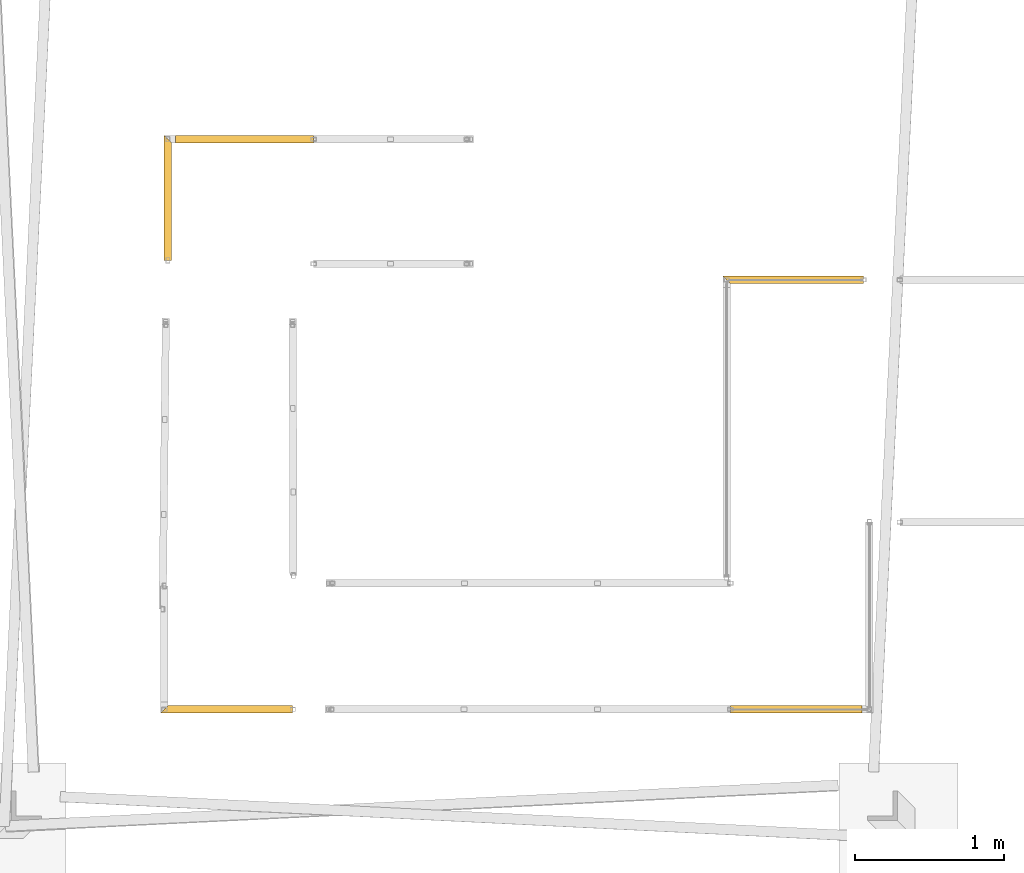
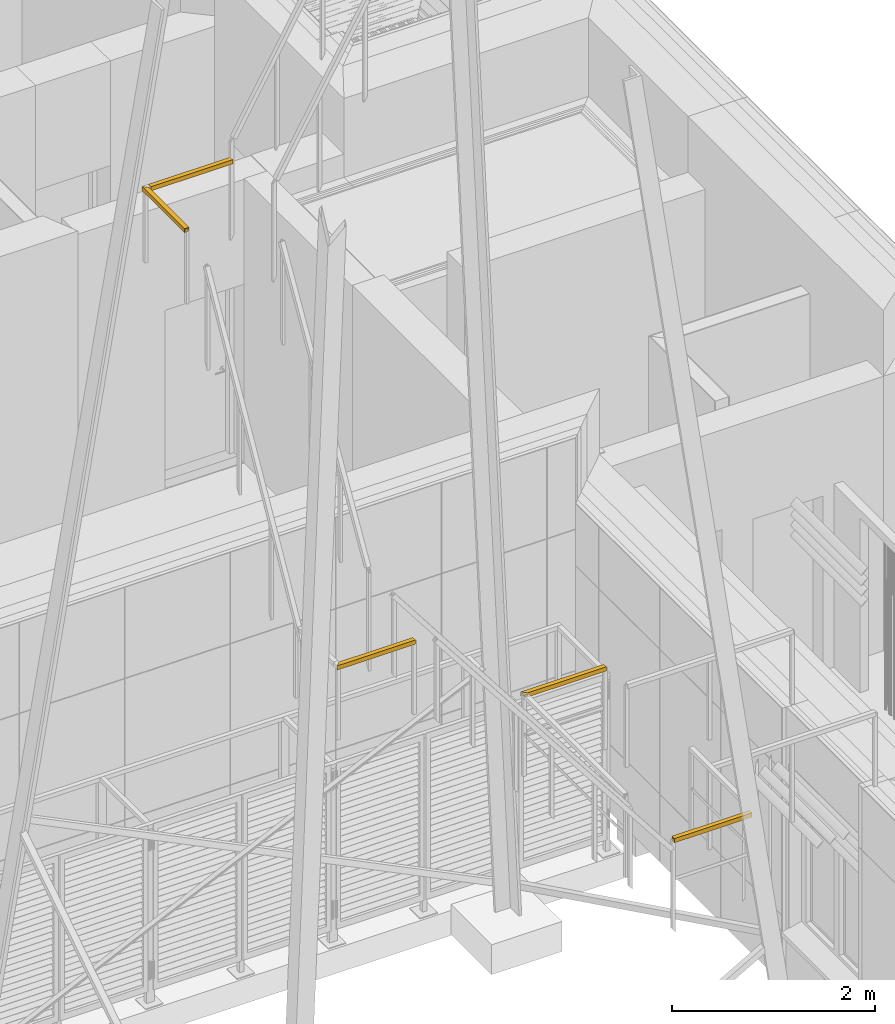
# One storey, part 171 of 418: 5 railings, 4 elements without a shape of their own.
"""IFC2X3 building model written with IfcOpenShell, lengths in millimetres."""

from ifc_helpers import new_model, entity, si_unit, converted_unit, derived_unit, money_unit, direction, frame, origin_with_axes, place, context, subcontext, project, spatial, faceted_brep, material, type_object, element, aggregate, save


model = new_model("IFC2X3")

# Units and contexts
model_context = context("Model", 3, precision=0.01, world=origin_with_axes(), true_north=direction((0.0, 1.0)))
body_context = subcontext(model_context, "Body", "Model", "MODEL_VIEW")
ifc_project = project(units=[si_unit("LENGTHUNIT", "METRE", prefix="MILLI"), si_unit("AREAUNIT", "SQUARE_METRE"), si_unit("VOLUMEUNIT", "CUBIC_METRE"), converted_unit("PLANEANGLEUNIT", "DEGREE", entity("IfcPlaneAngleMeasure", 0.0174532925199), si_unit("PLANEANGLEUNIT", "RADIAN"), dimensions=[0, 0, 0, 0, 0, 0, 0]), si_unit("SOLIDANGLEUNIT", "STERADIAN"), money_unit("EUR"), converted_unit("TIMEUNIT", "Year", entity("IfcTimeMeasure", 31556926.0), si_unit("TIMEUNIT", "SECOND"), dimensions=[0, 0, 1, 0, 0, 0, 0]), si_unit("MASSUNIT", "GRAM", prefix="KILO"), si_unit("THERMODYNAMICTEMPERATUREUNIT", "DEGREE_CELSIUS"), si_unit("LUMINOUSINTENSITYUNIT", "LUMEN"), si_unit("ENERGYUNIT", "JOULE", prefix="MEGA"), derived_unit("THERMALCONDUCTANCEUNIT", [(si_unit("POWERUNIT", "WATT"), 1), (si_unit("LENGTHUNIT", "METRE"), -1), (si_unit("THERMODYNAMICTEMPERATUREUNIT", "KELVIN"), -1)]), derived_unit("SPECIFICHEATCAPACITYUNIT", [(si_unit("ENERGYUNIT", "JOULE"), 1), (si_unit("MASSUNIT", "GRAM", prefix="KILO"), -1), (si_unit("THERMODYNAMICTEMPERATUREUNIT", "KELVIN"), -1)]), derived_unit("MASSDENSITYUNIT", [(si_unit("MASSUNIT", "GRAM", prefix="KILO"), 1), (si_unit("VOLUMEUNIT", "CUBIC_METRE"), -1)])], contexts=[model_context])

# Site, building, storey
site_placement = place(None, origin_with_axes())
site = spatial("IfcSite", under=ifc_project, at=site_placement, Name="Paldiski mnt 245/1, Tallinn, Harjumaa", CompositionType="COMPLEX")
building_placement = place(site_placement, origin_with_axes())
building = spatial("IfcBuilding", under=site, at=building_placement, Name="RKAS Hoone üldnimetus (kasutust iseloomustav) -> IFC Project Manager -> SOLIBRI", CompositionType="ELEMENT")
storey_placement = place(building_placement, origin_with_axes())
storey = spatial("IfcBuildingStorey", under=building, at=storey_placement, Name="Esimene korrus", CompositionType="ELEMENT", Elevation=0.0)

# Railings
railing_type_1 = type_object("IfcRailingType", Name="Railing Type", PredefinedType="NOTDEFINED")
railing_1_placement = place(storey_placement, frame((-50030.6058534, -4525.08408706, 3600.0), z_axis=(0.0, 0.0, 1.0), x_axis=(-0.773149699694, -0.634223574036, 0.0)))
railing_1 = element("IfcRailing", 1, at=railing_1_placement, inside=storey, type_object=railing_type_1, Name="PIIRE", PredefinedType="NOTDEFINED")
ifc_material = material(Name="ET-07_Teras - Roostevaba")
railing_type_2 = type_object("IfcRailingType", Name="IfcRailing", PredefinedType="GUARDRAIL")
railing_2_placement = place(railing_1_placement, frame((544.56646947, -446.714126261, 844.098300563), z_axis=(0.0, 0.0, 1.0), x_axis=(-0.773149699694, 0.634223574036, 0.0)))
railing_2 = element("IfcRailing", 2, at=railing_2_placement, type_object=railing_type_2, material=ifc_material, Name="Piirde Ülaosa - 001", PredefinedType="GUARDRAIL", context=body_context, shape_type="Brep", body=[
    faceted_brep([(459.921650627, 25.0, 55.9016994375), (459.921650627, 25.0, 5.9016994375), (-484.921650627, 25.0, 5.9016994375), (-484.921650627, 25.0, 55.9016994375), (459.921650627, -25.0, 55.9016994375), (459.921650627, -25.0, 5.9016994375), (459.921650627, 15.0, 45.9016994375), (459.921650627, 15.0, 15.9016994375), (459.921650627, -15.0, 15.9016994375), (459.921650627, -15.0, 45.9016994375), (-434.921650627, -25.0, 5.9016994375), (-434.921650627, -25.0, 55.9016994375), (-474.921650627, 15.0, 45.9016994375), (-444.921650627, -15.0, 45.9016994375), (-444.921650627, -15.0, 15.9016994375), (-474.921650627, 15.0, 15.9016994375)], [[[0, 1, 2, 3]], [[0, 4, 5, 1], [6, 7, 8, 9]], [[1, 5, 10, 2]], [[3, 2, 10, 11], [12, 13, 14, 15]], [[4, 0, 3, 11]], [[5, 4, 11, 10]], [[7, 6, 12, 15]], [[8, 7, 15, 14]], [[9, 8, 14, 13]], [[6, 9, 13, 12]]]),
])
aggregate(railing_1, [railing_2])

railing_3_placement = place(storey_placement, frame((-50030.6058534, -6155.24631697, 3600.0), z_axis=(0.0, 0.0, 1.0), x_axis=(-0.773149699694, -0.634223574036, 0.0)))
railing_3 = element("IfcRailing", 3, at=railing_3_placement, inside=storey, type_object=railing_type_1, Name="PIIRE", PredefinedType="NOTDEFINED")
railing_4_placement = place(railing_3_placement, frame((1338.11129652, 532.029270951, 844.098300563), z_axis=(0.0, 0.0, 1.0), x_axis=(-0.773149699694, 0.634223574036, 0.0)))
railing_4 = element("IfcRailing", 4, at=railing_4_placement, type_object=railing_type_2, material=ifc_material, Name="Piirde Ülaosa - 001", PredefinedType="GUARDRAIL", context=body_context, shape_type="Brep", body=[
    faceted_brep([(442.134841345, 15.0, 15.9016994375), (442.134841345, 15.0, 45.9016994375), (-442.134841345, 15.0, 45.9016994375), (-442.134841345, 15.0, 15.9016994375), (442.134841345, 25.0, 5.9016994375), (442.134841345, 25.0, 55.9016994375), (442.134841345, -25.0, 55.9016994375), (442.134841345, -25.0, 5.9016994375), (442.134841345, -15.0, 45.9016994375), (442.134841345, -15.0, 15.9016994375), (-442.134841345, -15.0, 45.9016994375), (-442.134841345, 25.0, 5.9016994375), (-442.134841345, -25.0, 5.9016994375), (-442.134841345, -25.0, 55.9016994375), (-442.134841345, 25.0, 55.9016994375), (-442.134841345, -15.0, 15.9016994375)], [[[0, 1, 2, 3]], [[4, 5, 6, 7], [8, 1, 0, 9]], [[1, 8, 10, 2]], [[11, 12, 13, 14], [10, 15, 3, 2]], [[9, 0, 3, 15]], [[5, 4, 11, 14]], [[6, 5, 14, 13]], [[7, 6, 13, 12]], [[4, 7, 12, 11]], [[8, 9, 15, 10]]]),
])
aggregate(railing_3, [railing_4])

railing_5_placement = place(storey_placement, frame((-54954.2897644, -4493.79536776, 10418.9997911), z_axis=(0.0, 0.0, 1.0), x_axis=(-0.773149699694, -0.634223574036, 0.0)))
railing_5 = element("IfcRailing", 5, at=railing_5_placement, inside=storey, type_object=railing_type_1, Name="PIIRE", PredefinedType="NOTDEFINED")
railing_6_placement = place(railing_5_placement, frame((-321.908179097, -392.421887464, 844.098300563), z_axis=(0.0, 0.0, 1.0), x_axis=(-0.773149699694, 0.634223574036, 0.0)))
railing_6 = element("IfcRailing", 6, at=railing_6_placement, type_object=railing_type_2, material=ifc_material, Name="Piirde Ülaosa - 001", PredefinedType="GUARDRAIL", context=body_context, shape_type="Brep", body=[
    faceted_brep([(25.0, -407.562620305, 55.9016994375), (25.0, -407.562620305, 5.90169943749), (25.0, 382.562620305, 5.90169943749), (25.0, 382.562620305, 55.9016994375), (-25.0, -407.562620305, 55.9016994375), (-25.0, -407.562620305, 5.90169943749), (15.0, -407.562620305, 45.9016994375), (15.0, -407.562620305, 15.9016994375), (-15.0, -407.562620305, 15.9016994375), (-15.0, -407.562620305, 45.9016994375), (-25.0, 432.562620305, 5.90169943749), (-25.0, 432.562620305, 55.9016994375), (15.0, 392.562620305, 45.9016994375), (-15.0, 422.562620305, 45.9016994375), (-15.0, 422.562620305, 15.9016994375), (15.0, 392.562620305, 15.9016994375)], [[[0, 1, 2, 3]], [[0, 4, 5, 1], [6, 7, 8, 9]], [[1, 5, 10, 2]], [[3, 2, 10, 11], [12, 13, 14, 15]], [[4, 0, 3, 11]], [[5, 4, 11, 10]], [[7, 6, 12, 15]], [[8, 7, 15, 14]], [[9, 8, 14, 13]], [[6, 9, 13, 12]]]),
])
railing_7_placement = place(railing_5_placement, frame((-978.331489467, -381.096114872, 844.098300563), z_axis=(0.0, 0.0, 1.0), x_axis=(-0.773149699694, 0.634223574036, 0.0)))
railing_7 = element("IfcRailing", 7, at=railing_7_placement, type_object=railing_type_2, material=ifc_material, Name="Piirde Ülaosa - 001", PredefinedType="GUARDRAIL", context=body_context, shape_type="Brep", body=[
    faceted_brep([(-464.696557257, -15.0, 45.9016994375), (-464.696557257, 15.0, 45.9016994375), (464.696557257, 15.0, 45.9016994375), (464.696557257, -15.0, 45.9016994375), (-464.696557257, -25.0, 55.9016994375), (-464.696557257, 25.0, 55.9016994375), (-464.696557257, 25.0, 5.90169943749), (-464.696557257, -25.0, 5.90169943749), (-464.696557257, 15.0, 15.9016994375), (-464.696557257, -15.0, 15.9016994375), (464.696557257, 15.0, 15.9016994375), (464.696557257, -25.0, 5.90169943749), (464.696557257, 25.0, 5.90169943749), (464.696557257, 25.0, 55.9016994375), (464.696557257, -25.0, 55.9016994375), (464.696557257, -15.0, 15.9016994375)], [[[0, 1, 2, 3]], [[4, 5, 6, 7], [8, 1, 0, 9]], [[1, 8, 10, 2]], [[11, 12, 13, 14], [2, 10, 15, 3]], [[9, 0, 3, 15]], [[5, 4, 14, 13]], [[6, 5, 13, 12]], [[7, 6, 12, 11]], [[4, 7, 11, 14]], [[8, 9, 15, 10]]]),
])
aggregate(railing_5, [railing_6, railing_7])

railing_8_placement = place(storey_placement, frame((-54114.8755361, -7423.92064935, 7119.375), z_axis=(0.0, 0.0, 1.0), x_axis=(-0.773149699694, -0.634223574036, 0.0)))
railing_8 = element("IfcRailing", 8, at=railing_8_placement, inside=storey, type_object=railing_type_1, Name="PIIRE", PredefinedType="NOTDEFINED")
railing_9_placement = place(railing_8_placement, frame((328.561232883, -280.742024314, 744.098300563), z_axis=(0.0, 0.0, 1.0), x_axis=(-0.773149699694, 0.634223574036, 0.0)))
railing_9 = element("IfcRailing", 9, at=railing_9_placement, type_object=railing_type_2, material=ifc_material, Name="Piirde Ülaosa - 001", PredefinedType="GUARDRAIL", context=body_context, shape_type="Brep", body=[
    faceted_brep([(432.080228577, 25.0, 55.9016994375), (432.080228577, 25.0, 5.9016994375), (-407.080228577, 25.0, 5.9016994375), (-407.080228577, 25.0, 55.9016994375), (432.080228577, -25.0, 55.9016994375), (432.080228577, -25.0, 5.9016994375), (432.080228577, 15.0, 45.9016994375), (432.080228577, 15.0, 15.9016994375), (432.080228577, -15.0, 15.9016994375), (432.080228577, -15.0, 45.9016994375), (-457.080228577, -25.0, 5.9016994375), (-457.080228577, -25.0, 55.9016994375), (-417.080228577, 15.0, 45.9016994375), (-447.080228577, -15.0, 45.9016994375), (-447.080228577, -15.0, 15.9016994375), (-417.080228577, 15.0, 15.9016994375)], [[[0, 1, 2, 3]], [[0, 4, 5, 1], [6, 7, 8, 9]], [[1, 5, 10, 2]], [[3, 2, 10, 11], [12, 13, 14, 15]], [[4, 0, 3, 11]], [[5, 4, 11, 10]], [[7, 6, 12, 15]], [[8, 7, 15, 14]], [[9, 8, 14, 13]], [[6, 9, 13, 12]]]),
])
aggregate(railing_8, [railing_9])

save(model, "model.ifc")
